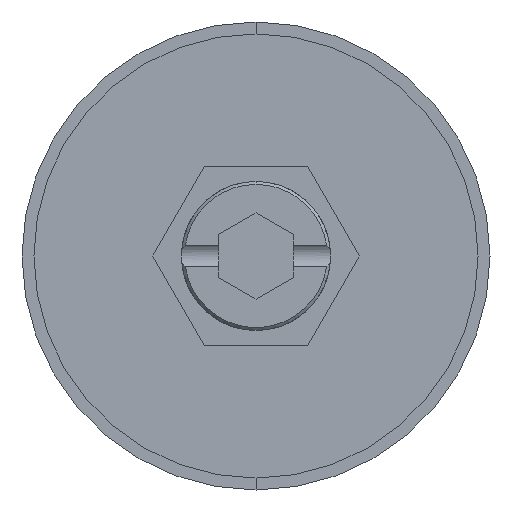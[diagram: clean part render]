
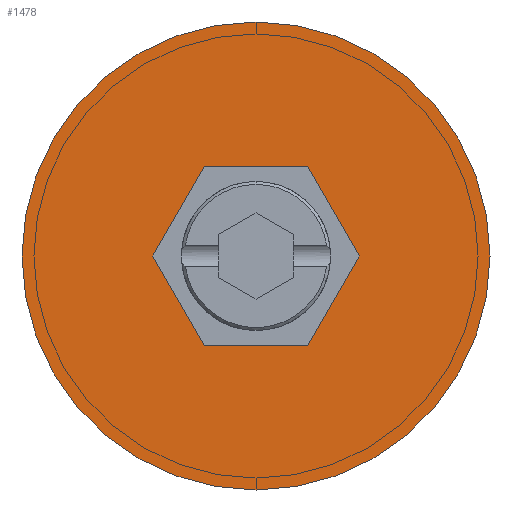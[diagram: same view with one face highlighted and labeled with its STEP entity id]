
A CAD part, front view. The second image highlights one B-rep face of the part: STEP entity #1478.
In plain terms, the highlighted planar face has unit normal (0, -1, 0).
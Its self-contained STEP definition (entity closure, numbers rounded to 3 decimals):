
#47 = CIRCLE ( 'NONE', #1483, 15.7 ) ;
#105 = ORIENTED_EDGE ( 'NONE', *, *, #986, .T. ) ;
#107 = EDGE_CURVE ( 'NONE', #134, #335, #877, .T. ) ;
#134 = VERTEX_POINT ( 'NONE', #938 ) ;
#149 = AXIS2_PLACEMENT_3D ( 'NONE', #821, #615, #1243 ) ;
#193 = LINE ( 'NONE', #1079, #1472 ) ;
#206 = EDGE_CURVE ( 'NONE', #2033, #522, #1834, .T. ) ;
#267 = VECTOR ( 'NONE', #807, 1000. ) ;
#335 = VERTEX_POINT ( 'NONE', #1348 ) ;
#374 = DIRECTION ( 'NONE',  ( 0., 0., -1. ) ) ;
#420 = PLANE ( 'NONE',  #149 ) ;
#430 = CARTESIAN_POINT ( 'NONE',  ( 0., 0., 15.7 ) ) ;
#520 = ORIENTED_EDGE ( 'NONE', *, *, #1116, .F. ) ;
#522 = VERTEX_POINT ( 'NONE', #1890 ) ;
#527 = CARTESIAN_POINT ( 'NONE',  ( 0., 0., -15.7 ) ) ;
#596 = CARTESIAN_POINT ( 'NONE',  ( 3.464, 0., -6. ) ) ;
#599 = ORIENTED_EDGE ( 'NONE', *, *, #107, .F. ) ;
#615 = DIRECTION ( 'NONE',  ( 0., -1., 0. ) ) ;
#687 = FACE_OUTER_BOUND ( 'NONE', #1405, .T. ) ;
#739 = ORIENTED_EDGE ( 'NONE', *, *, #1838, .T. ) ;
#776 = AXIS2_PLACEMENT_3D ( 'NONE', #1736, #1728, #374 ) ;
#777 = DIRECTION ( 'NONE',  ( 0.5, 0., 0.866 ) ) ;
#787 = VERTEX_POINT ( 'NONE', #1561 ) ;
#791 = FACE_BOUND ( 'NONE', #1676, .T. ) ;
#796 = EDGE_CURVE ( 'NONE', #2059, #2033, #1819, .T. ) ;
#807 = DIRECTION ( 'NONE',  ( -1., 0., 0. ) ) ;
#810 = EDGE_CURVE ( 'NONE', #335, #787, #1105, .T. ) ;
#815 = VECTOR ( 'NONE', #2147, 1000. ) ;
#821 = CARTESIAN_POINT ( 'NONE',  ( 0., 0., 0. ) ) ;
#877 = LINE ( 'NONE', #1683, #267 ) ;
#891 = ORIENTED_EDGE ( 'NONE', *, *, #796, .F. ) ;
#924 = VECTOR ( 'NONE', #1960, 1000. ) ;
#938 = CARTESIAN_POINT ( 'NONE',  ( 3.464, 0., 6. ) ) ;
#979 = CARTESIAN_POINT ( 'NONE',  ( 0., 0., 0. ) ) ;
#986 = EDGE_CURVE ( 'NONE', #1903, #1762, #1379, .T. ) ;
#989 = DIRECTION ( 'NONE',  ( 0., -1., 0. ) ) ;
#999 = DIRECTION ( 'NONE',  ( 0., 0., -1. ) ) ;
#1006 = CARTESIAN_POINT ( 'NONE',  ( 3.464, 0., -6. ) ) ;
#1058 = ORIENTED_EDGE ( 'NONE', *, *, #206, .F. ) ;
#1079 = CARTESIAN_POINT ( 'NONE',  ( 6.928, 0., 0. ) ) ;
#1085 = DIRECTION ( 'NONE',  ( -0.5, 0., 0.866 ) ) ;
#1105 = LINE ( 'NONE', #2079, #2084 ) ;
#1116 = EDGE_CURVE ( 'NONE', #522, #134, #193, .T. ) ;
#1203 = CARTESIAN_POINT ( 'NONE',  ( -3.464, 0., -6. ) ) ;
#1243 = DIRECTION ( 'NONE',  ( 0., 0., -1. ) ) ;
#1348 = CARTESIAN_POINT ( 'NONE',  ( -3.464, 0., 6. ) ) ;
#1379 = CIRCLE ( 'NONE', #776, 15.7 ) ;
#1405 = EDGE_LOOP ( 'NONE', ( #105, #739 ) ) ;
#1472 = VECTOR ( 'NONE', #1085, 1000. ) ;
#1478 = ADVANCED_FACE ( 'NONE', ( #791, #687 ), #420, .T. ) ;
#1483 = AXIS2_PLACEMENT_3D ( 'NONE', #979, #989, #999 ) ;
#1561 = CARTESIAN_POINT ( 'NONE',  ( -6.928, 0., 0. ) ) ;
#1601 = CARTESIAN_POINT ( 'NONE',  ( -6.928, 0., 0. ) ) ;
#1640 = EDGE_CURVE ( 'NONE', #787, #2059, #2232, .T. ) ;
#1662 = VECTOR ( 'NONE', #777, 1000. ) ;
#1676 = EDGE_LOOP ( 'NONE', ( #891, #2081, #1886, #599, #520, #1058 ) ) ;
#1683 = CARTESIAN_POINT ( 'NONE',  ( 3.464, 0., 6. ) ) ;
#1728 = DIRECTION ( 'NONE',  ( 0., -1., 0. ) ) ;
#1736 = CARTESIAN_POINT ( 'NONE',  ( 0., 0., 0. ) ) ;
#1762 = VERTEX_POINT ( 'NONE', #430 ) ;
#1819 = LINE ( 'NONE', #1882, #924 ) ;
#1834 = LINE ( 'NONE', #596, #1662 ) ;
#1838 = EDGE_CURVE ( 'NONE', #1762, #1903, #47, .T. ) ;
#1882 = CARTESIAN_POINT ( 'NONE',  ( -3.464, 0., -6. ) ) ;
#1886 = ORIENTED_EDGE ( 'NONE', *, *, #810, .F. ) ;
#1890 = CARTESIAN_POINT ( 'NONE',  ( 6.928, 0., 0. ) ) ;
#1903 = VERTEX_POINT ( 'NONE', #527 ) ;
#1960 = DIRECTION ( 'NONE',  ( 1., 0., 0. ) ) ;
#1972 = DIRECTION ( 'NONE',  ( -0.5, 0., -0.866 ) ) ;
#2033 = VERTEX_POINT ( 'NONE', #1006 ) ;
#2059 = VERTEX_POINT ( 'NONE', #1203 ) ;
#2079 = CARTESIAN_POINT ( 'NONE',  ( -3.464, 0., 6. ) ) ;
#2081 = ORIENTED_EDGE ( 'NONE', *, *, #1640, .F. ) ;
#2084 = VECTOR ( 'NONE', #1972, 1000. ) ;
#2147 = DIRECTION ( 'NONE',  ( 0.5, 0., -0.866 ) ) ;
#2232 = LINE ( 'NONE', #1601, #815 ) ;
